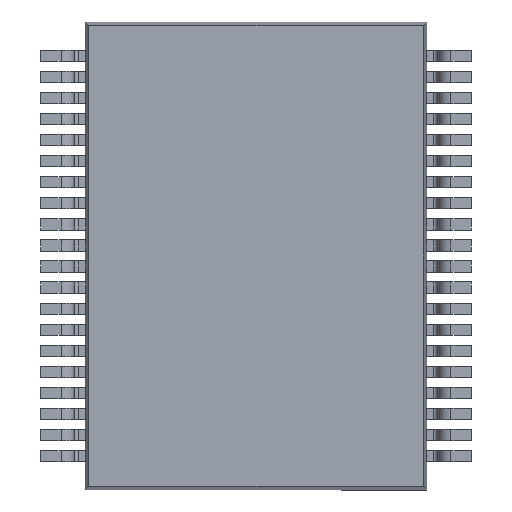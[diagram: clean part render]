
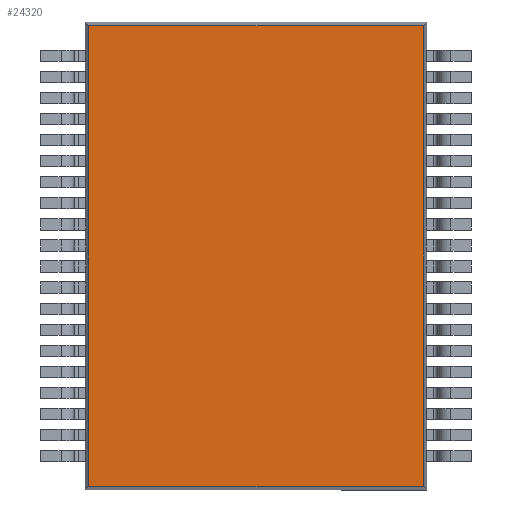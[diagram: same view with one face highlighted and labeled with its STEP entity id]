
A CAD part, front view. The second image highlights one B-rep face of the part: STEP entity #24320.
In plain terms, the highlighted planar face has unit normal (0, -1, 0).
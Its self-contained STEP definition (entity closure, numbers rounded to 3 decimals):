
#459 = FACE_OUTER_BOUND ( 'NONE', #3432, .T. ) ;
#3432 = EDGE_LOOP ( 'NONE', ( #23243, #23244, #23245, #23246 ) ) ;
#5258 = CARTESIAN_POINT ( 'NONE',  ( -3.966, 0.1, 5.466 ) ) ;
#5344 = CARTESIAN_POINT ( 'NONE',  ( 3.966, 0.1, -5.466 ) ) ;
#5415 = CARTESIAN_POINT ( 'NONE',  ( -3.966, 0.1, -5.466 ) ) ;
#5461 = CARTESIAN_POINT ( 'NONE',  ( 3.966, 0.1, 5.466 ) ) ;
#8168 = PLANE ( 'NONE',  #9124 ) ;
#8169 = CARTESIAN_POINT ( 'NONE',  ( 0., 0.1, 0. ) ) ;
#8183 = DIRECTION ( 'NONE',  ( 0., 1., 0. ) ) ;
#8185 = DIRECTION ( 'NONE',  ( 0., 0., 1. ) ) ;
#9124 = AXIS2_PLACEMENT_3D ( 'NONE', #8169, #8183, #8185 ) ;
#14753 = LINE ( 'NONE', #19788, #14756 ) ;
#14756 = VECTOR ( 'NONE', #19790, 1000. ) ;
#14769 = LINE ( 'NONE', #19804, #14772 ) ;
#14772 = VECTOR ( 'NONE', #19805, 1000. ) ;
#15044 = LINE ( 'NONE', #20148, #15047 ) ;
#15046 = LINE ( 'NONE', #20150, #15049 ) ;
#15047 = VECTOR ( 'NONE', #20149, 1000. ) ;
#15049 = VECTOR ( 'NONE', #20151, 1000. ) ;
#16631 = VERTEX_POINT ( 'NONE', #5258 ) ;
#16717 = VERTEX_POINT ( 'NONE', #5344 ) ;
#16789 = VERTEX_POINT ( 'NONE', #5415 ) ;
#16841 = VERTEX_POINT ( 'NONE', #5461 ) ;
#19788 = CARTESIAN_POINT ( 'NONE',  ( 3.966, 0.1, 5.55 ) ) ;
#19790 = DIRECTION ( 'NONE',  ( 0., 0., 1. ) ) ;
#19804 = CARTESIAN_POINT ( 'NONE',  ( -3.966, 0.1, 5.55 ) ) ;
#19805 = DIRECTION ( 'NONE',  ( 0., 0., -1. ) ) ;
#20148 = CARTESIAN_POINT ( 'NONE',  ( 4.05, 0.1, -5.466 ) ) ;
#20149 = DIRECTION ( 'NONE',  ( 1., 0., 0. ) ) ;
#20150 = CARTESIAN_POINT ( 'NONE',  ( 4.05, 0.1, 5.466 ) ) ;
#20151 = DIRECTION ( 'NONE',  ( -1., 0., 0. ) ) ;
#21022 = EDGE_CURVE ( 'NONE', #16717, #16841, #14753, .T. ) ;
#21030 = EDGE_CURVE ( 'NONE', #16631, #16789, #14769, .T. ) ;
#21185 = EDGE_CURVE ( 'NONE', #16789, #16717, #15044, .T. ) ;
#21186 = EDGE_CURVE ( 'NONE', #16841, #16631, #15046, .T. ) ;
#23243 = ORIENTED_EDGE ( 'NONE', *, *, #21030, .T. ) ;
#23244 = ORIENTED_EDGE ( 'NONE', *, *, #21185, .T. ) ;
#23245 = ORIENTED_EDGE ( 'NONE', *, *, #21022, .T. ) ;
#23246 = ORIENTED_EDGE ( 'NONE', *, *, #21186, .T. ) ;
#24320 = ADVANCED_FACE ( 'NONE', ( #459 ), #8168, .F. ) ;
